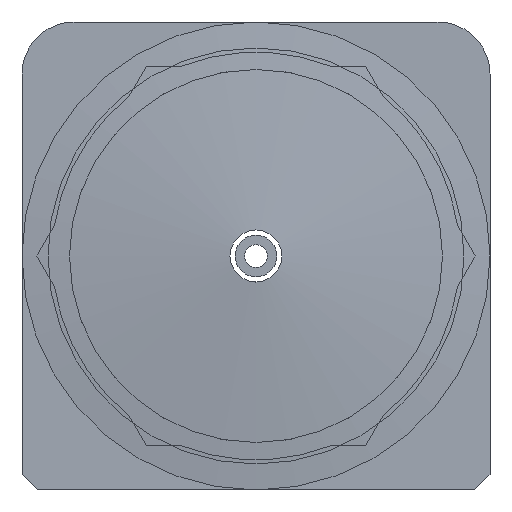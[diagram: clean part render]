
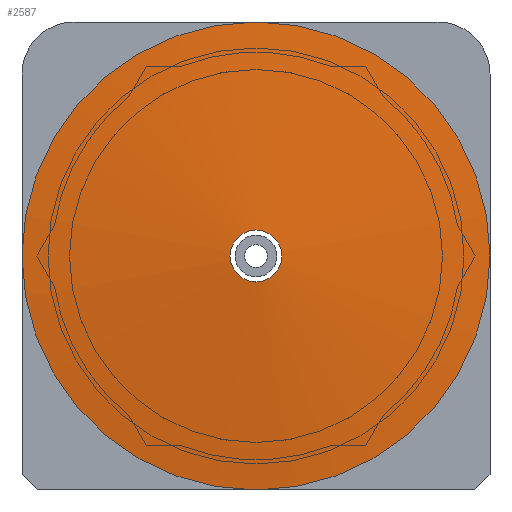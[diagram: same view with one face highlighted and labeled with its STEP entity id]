
A CAD part, front view. The second image highlights one B-rep face of the part: STEP entity #2587.
In plain terms, the highlighted spherical face has radius 127.562 mm.
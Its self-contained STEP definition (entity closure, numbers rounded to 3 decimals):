
#35=SPHERICAL_SURFACE('',#2813,127.563);
#210=CIRCLE('',#2814,22.5);
#211=CIRCLE('',#2815,2.5);
#741=ORIENTED_EDGE('',*,*,#1079,.T.);
#742=ORIENTED_EDGE('',*,*,#1080,.T.);
#1079=EDGE_CURVE('',#1277,#1277,#210,.T.);
#1080=EDGE_CURVE('',#1278,#1278,#211,.T.);
#1277=VERTEX_POINT('',#7020);
#1278=VERTEX_POINT('',#7022);
#1497=EDGE_LOOP('',(#741));
#1498=EDGE_LOOP('',(#742));
#1720=FACE_BOUND('',#1497,.T.);
#1721=FACE_BOUND('',#1498,.T.);
#2587=ADVANCED_FACE('',(#1720,#1721),#35,.T.);
#2813=AXIS2_PLACEMENT_3D('',#7018,#3259,#3260);
#2814=AXIS2_PLACEMENT_3D('',#7019,#3261,#3262);
#2815=AXIS2_PLACEMENT_3D('',#7021,#3263,#3264);
#3259=DIRECTION('',(0.,0.,1.));
#3260=DIRECTION('',(1.,0.,0.));
#3261=DIRECTION('',(0.,0.,1.));
#3262=DIRECTION('',(1.,0.,0.));
#3263=DIRECTION('',(0.,0.,-1.));
#3264=DIRECTION('',(-1.,0.,0.));
#7018=CARTESIAN_POINT('',(0.,0.,-112.063));
#7019=CARTESIAN_POINT('',(0.,0.,13.5));
#7020=CARTESIAN_POINT('',(22.5,0.,13.5));
#7021=CARTESIAN_POINT('',(0.,0.,15.475));
#7022=CARTESIAN_POINT('',(-2.5,0.,15.475));
